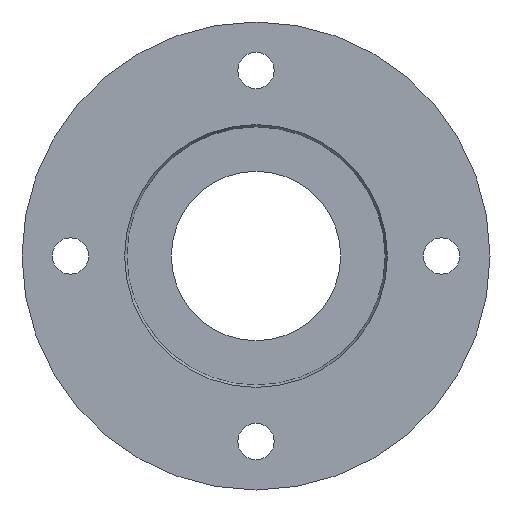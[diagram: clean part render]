
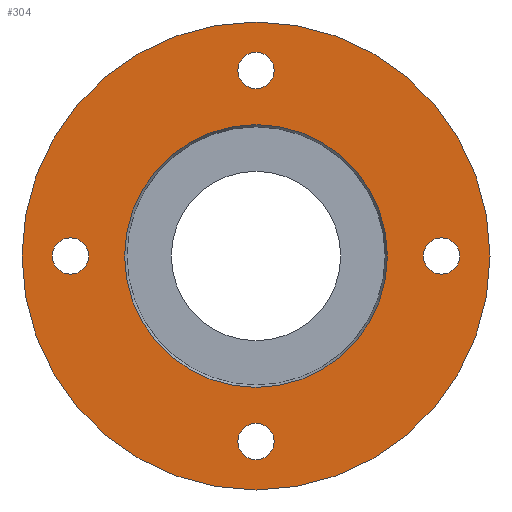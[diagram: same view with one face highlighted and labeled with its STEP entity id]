
A CAD part, left-side view. The second image highlights one B-rep face of the part: STEP entity #304.
In plain terms, the highlighted planar face has unit normal (-1, 0, 0).
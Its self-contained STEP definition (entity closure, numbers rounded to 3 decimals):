
#58=FACE_BOUND('',#108,.T.);
#59=FACE_BOUND('',#109,.T.);
#60=FACE_BOUND('',#110,.T.);
#61=FACE_BOUND('',#111,.T.);
#62=FACE_BOUND('',#112,.T.);
#83=FACE_OUTER_BOUND('',#107,.T.);
#107=EDGE_LOOP('',(#257));
#108=EDGE_LOOP('',(#258));
#109=EDGE_LOOP('',(#259));
#110=EDGE_LOOP('',(#260));
#111=EDGE_LOOP('',(#261));
#112=EDGE_LOOP('',(#262));
#127=CIRCLE('',#339,2.25);
#131=CIRCLE('',#346,2.25);
#135=CIRCLE('',#353,2.25);
#139=CIRCLE('',#360,2.25);
#142=CIRCLE('',#365,16.289);
#143=CIRCLE('',#367,29.);
#151=VERTEX_POINT('',#491);
#155=VERTEX_POINT('',#504);
#159=VERTEX_POINT('',#517);
#163=VERTEX_POINT('',#530);
#166=VERTEX_POINT('',#540);
#167=VERTEX_POINT('',#544);
#177=EDGE_CURVE('',#151,#151,#127,.T.);
#183=EDGE_CURVE('',#155,#155,#131,.T.);
#189=EDGE_CURVE('',#159,#159,#135,.T.);
#195=EDGE_CURVE('',#163,#163,#139,.T.);
#200=EDGE_CURVE('',#166,#166,#142,.T.);
#201=EDGE_CURVE('',#167,#167,#143,.T.);
#257=ORIENTED_EDGE('',*,*,#201,.F.);
#258=ORIENTED_EDGE('',*,*,#177,.T.);
#259=ORIENTED_EDGE('',*,*,#183,.T.);
#260=ORIENTED_EDGE('',*,*,#189,.T.);
#261=ORIENTED_EDGE('',*,*,#195,.T.);
#262=ORIENTED_EDGE('',*,*,#200,.T.);
#287=PLANE('',#366);
#304=ADVANCED_FACE('',(#83,#58,#59,#60,#61,#62),#287,.T.);
#339=AXIS2_PLACEMENT_3D('',#493,#393,#394);
#346=AXIS2_PLACEMENT_3D('',#506,#409,#410);
#353=AXIS2_PLACEMENT_3D('',#519,#425,#426);
#360=AXIS2_PLACEMENT_3D('',#532,#441,#442);
#365=AXIS2_PLACEMENT_3D('',#542,#453,#454);
#366=AXIS2_PLACEMENT_3D('',#543,#455,#456);
#367=AXIS2_PLACEMENT_3D('',#545,#457,#458);
#393=DIRECTION('center_axis',(1.,0.,0.));
#394=DIRECTION('ref_axis',(0.,-1.,0.));
#409=DIRECTION('center_axis',(1.,0.,0.));
#410=DIRECTION('ref_axis',(0.,0.,1.));
#425=DIRECTION('center_axis',(1.,0.,0.));
#426=DIRECTION('ref_axis',(0.,1.,0.));
#441=DIRECTION('center_axis',(1.,0.,0.));
#442=DIRECTION('ref_axis',(0.,0.,-1.));
#453=DIRECTION('center_axis',(1.,0.,0.));
#454=DIRECTION('ref_axis',(0.,0.,-1.));
#455=DIRECTION('center_axis',(-1.,0.,0.));
#456=DIRECTION('ref_axis',(0.,0.,1.));
#457=DIRECTION('center_axis',(1.,0.,0.));
#458=DIRECTION('ref_axis',(0.,0.,-1.));
#491=CARTESIAN_POINT('',(0.,2.25,-23.));
#493=CARTESIAN_POINT('Origin',(0.,0.,
-23.));
#504=CARTESIAN_POINT('',(0.,-23.,-2.25));
#506=CARTESIAN_POINT('Origin',(0.,-23.,0.));
#517=CARTESIAN_POINT('',(0.,-2.25,23.));
#519=CARTESIAN_POINT('Origin',(0.,0.,
23.));
#530=CARTESIAN_POINT('',(0.,23.,2.25));
#532=CARTESIAN_POINT('Origin',(0.,23.,0.));
#540=CARTESIAN_POINT('',(0.,-16.289,0.));
#542=CARTESIAN_POINT('Origin',(0.,0.,0.));
#543=CARTESIAN_POINT('Origin',(0.,29.,0.));
#544=CARTESIAN_POINT('',(0.,-29.,0.));
#545=CARTESIAN_POINT('Origin',(0.,0.,0.));
